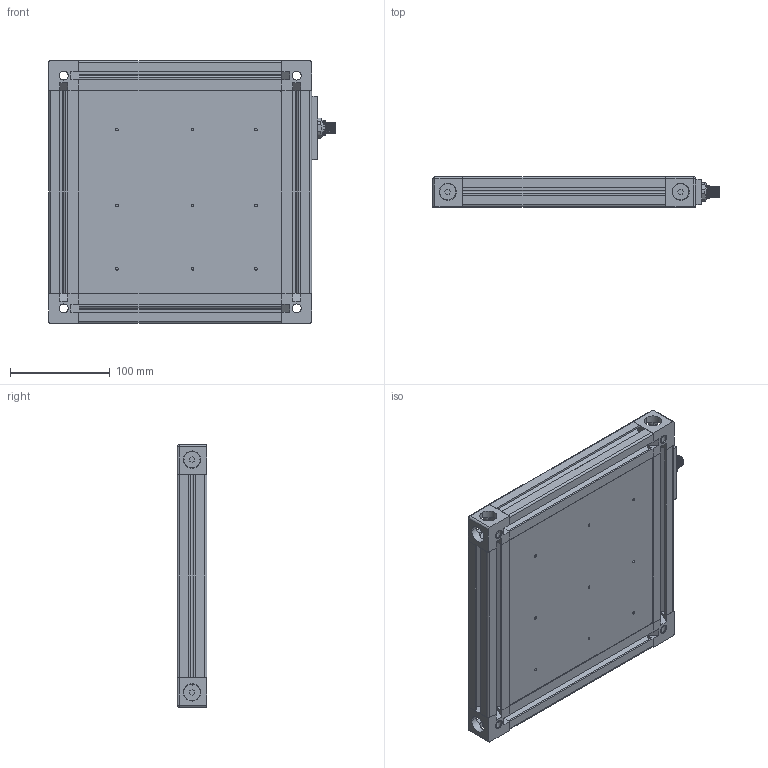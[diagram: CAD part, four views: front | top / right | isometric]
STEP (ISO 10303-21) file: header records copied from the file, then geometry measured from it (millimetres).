
FILE_DESCRIPTION (( 'STEP AP214' ), '1' );
FILE_NAME ('SOBL-200X200.STEP', '2020-05-20T19:43:13', ( '' ), ( '' ), 'SwSTEP 2.0', 'SolidWorks 2020', '' );
FILE_SCHEMA (( 'AUTOMOTIVE_DESIGN' ));
Length unit declared in the file: millimetre
Products named in the file (14): SOBL-200X200; Input Assembly; 2x6 LED Board; Screws -- short_FB08.0-015; BAR-30_203; M12_Male; Corner Cube-30; M12 Nut; Screw holder; SOBL-BP-(50-600)_200X200; SOBL-BC_200x200_; Screws_FB08.0-015; 150mm LED Board; Input Mounting Plate_STANDARD
Assembly tree (29 placements, depth 3):
  SOBL-200X200
    Corner Cube-30  x4
    BAR-30_203  x4
    Screws_FB08.0-015  x8
    Input Assembly
      M12_Male
      Input Mounting Plate_STANDARD
      Screws -- short_FB08.0-015  x2
      Screw holder  x2
      M12 Nut
    150mm LED Board
    2x6 LED Board  x2
    SOBL-BC_200x200_
    SOBL-BP-(50-600)_200X200
Bounding box: 287.73 x 30 x 264 mm (x, y, z)
Volume: 704409.1 mm3; surface area: 594954.1 mm2
Topology: 28 solids, 29 shells, 2537 faces, 6509 edges, 4290 vertices
Faces by surface type: plane 1839, cylinder 512, cone 84, bspline 70, sphere 28, torus 4
Entity records: 82034 total; most frequent: CARTESIAN_POINT 29600, ORIENTED_EDGE 8220, DIRECTION 7500, EDGE_CURVE 4110, VECTOR 3276, LINE 3276, VERTEX_POINT 2724, AXIS2_PLACEMENT_3D 2112
